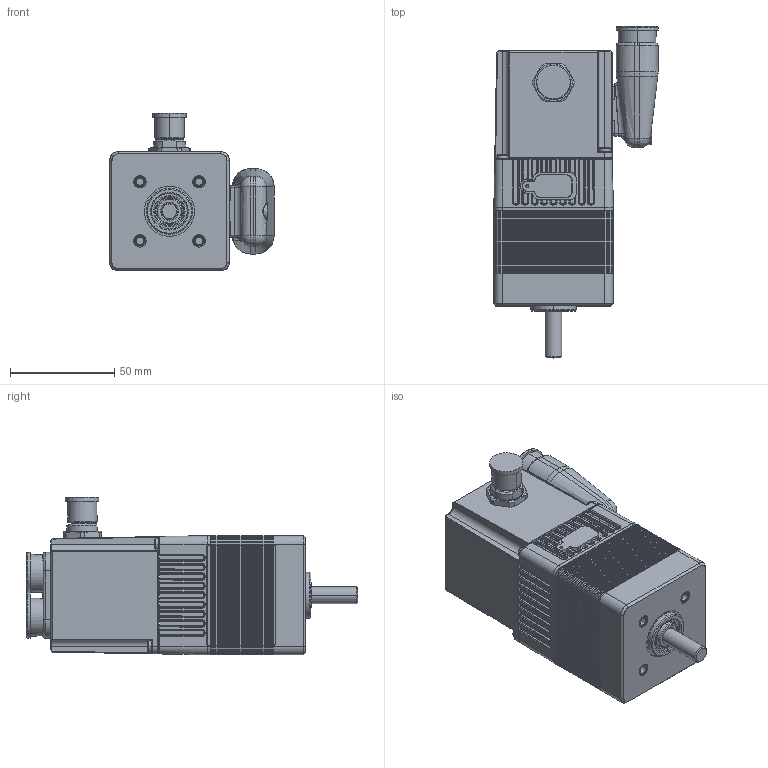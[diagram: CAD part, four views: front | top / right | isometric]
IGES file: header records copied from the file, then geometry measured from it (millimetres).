
Start section:  PTC IGES file: 80140301.igs
Global section: file name: 80140301.igs; native system: Creo Elements/Pro by Parametric Technology Corporation; preprocessor: 2012090; author: RGAMET01; organization: Unknown; date: 20150409.102803; units: millimetre
Bounding box: 79 x 158.97 x 75.66 mm (x, y, z)
Surface area: 56710.4 mm2 (no closed solid volume)
Topology: 0 solids, 0 shells, 2168 faces, 10686 edges, 10684 vertices
Faces by surface type: revolution 1126, bspline 1042
